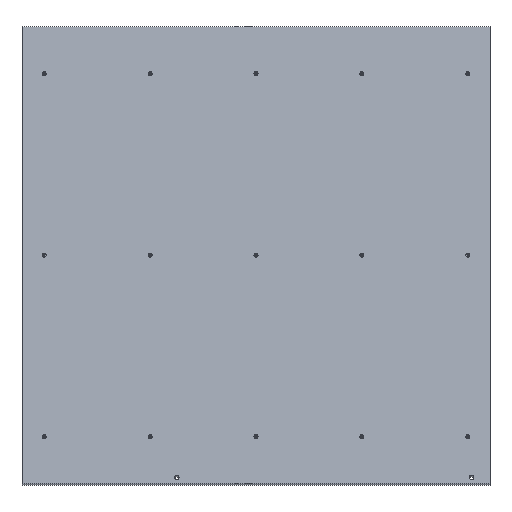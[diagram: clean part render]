
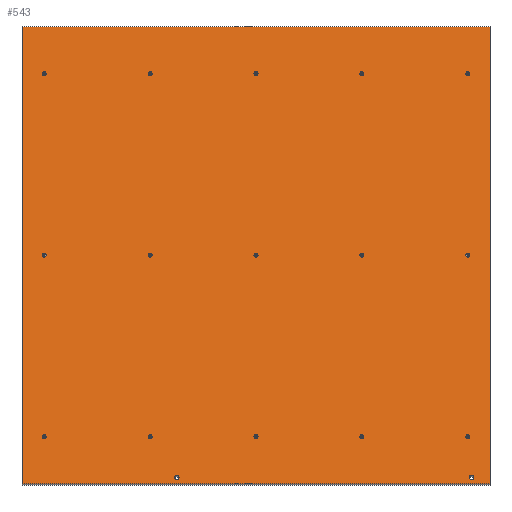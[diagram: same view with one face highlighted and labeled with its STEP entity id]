
A CAD part, front view. The second image highlights one B-rep face of the part: STEP entity #543.
In plain terms, the highlighted planar face has unit normal (0, -0.985, 0.174).
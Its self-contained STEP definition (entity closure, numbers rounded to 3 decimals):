
#37=CARTESIAN_POINT('',(1249.75,-5.209,296.706));
#38=VERTEX_POINT('',#37);
#45=CARTESIAN_POINT('',(-20.,-5.209,296.706));
#46=VERTEX_POINT('',#45);
#47=CARTESIAN_POINT('',(-20.,-5.209,296.706));
#48=DIRECTION('',(1.0,0.0,0.0));
#49=VECTOR('',#48,1.);
#50=LINE('',#47,#49);
#51=EDGE_CURVE('',#46,#38,#50,.T.);
#75=CARTESIAN_POINT('',(1249.75,213.587,1537.564));
#76=VERTEX_POINT('',#75);
#83=CARTESIAN_POINT('',(1249.75,-5.209,296.706));
#84=DIRECTION('',(0.,0.174,0.985));
#85=VECTOR('',#84,1.);
#86=LINE('',#83,#85);
#87=EDGE_CURVE('',#38,#76,#86,.T.);
#106=CARTESIAN_POINT('',(-20.,213.587,1537.564));
#107=VERTEX_POINT('',#106);
#114=CARTESIAN_POINT('',(1249.75,213.587,1537.564));
#115=DIRECTION('',(-1.0,0.,0.));
#116=VECTOR('',#115,1.);
#117=LINE('',#114,#116);
#118=EDGE_CURVE('',#76,#107,#117,.T.);
#136=CARTESIAN_POINT('',(-20.,213.587,1537.564));
#137=DIRECTION('',(0.,-0.174,-0.985));
#138=VECTOR('',#137,1.);
#139=LINE('',#136,#138);
#140=EDGE_CURVE('',#107,#46,#139,.T.);
#345=CARTESIAN_POINT('',(-20.,-5.209,296.706));
#346=DIRECTION('',(0.0,-0.985,0.174));
#347=DIRECTION('',(1.0,0.0,0.0));
#348=AXIS2_PLACEMENT_3D('',#345,#346,#347);
#349=PLANE('',#348);
#350=ORIENTED_EDGE('',*,*,#51,.T.);
#351=ORIENTED_EDGE('',*,*,#87,.T.);
#352=ORIENTED_EDGE('',*,*,#118,.T.);
#353=ORIENTED_EDGE('',*,*,#140,.T.);
#354=EDGE_LOOP('',(#350,#351,#352,#353));
#355=FACE_OUTER_BOUND('',#354,.T.);
#356=CARTESIAN_POINT('',(406.,-2.084,314.432));
#357=VERTEX_POINT('',#356);
#358=CARTESIAN_POINT('',(400.,-2.084,314.432));
#359=DIRECTION('',(0.0,-0.985,0.174));
#360=DIRECTION('',(1.0,0.0,0.0));
#361=AXIS2_PLACEMENT_3D('',#358,#359,#360);
#362=CIRCLE('',#361,6.0);
#363=EDGE_CURVE('',#357,#357,#362,.T.);
#364=ORIENTED_EDGE('',*,*,#363,.F.);
#365=EDGE_LOOP('',(#364));
#366=FACE_BOUND('',#365,.T.);
#367=CARTESIAN_POINT('',(1206.,-2.084,314.432));
#368=VERTEX_POINT('',#367);
#369=CARTESIAN_POINT('',(1200.0,-2.084,314.432));
#370=DIRECTION('',(0.0,-0.985,0.174));
#371=DIRECTION('',(1.0,0.0,0.0));
#372=AXIS2_PLACEMENT_3D('',#369,#370,#371);
#373=CIRCLE('',#372,6.0);
#374=EDGE_CURVE('',#368,#368,#373,.T.);
#375=ORIENTED_EDGE('',*,*,#374,.F.);
#376=EDGE_LOOP('',(#375));
#377=FACE_BOUND('',#376,.T.);
#378=CARTESIAN_POINT('',(45.5,17.365,424.731));
#379=VERTEX_POINT('',#378);
#380=CARTESIAN_POINT('',(40.,17.365,424.731));
#381=DIRECTION('',(0.0,-0.985,0.174));
#382=DIRECTION('',(1.0,0.0,0.0));
#383=AXIS2_PLACEMENT_3D('',#380,#381,#382);
#384=CIRCLE('',#383,5.5);
#385=EDGE_CURVE('',#379,#379,#384,.T.);
#386=ORIENTED_EDGE('',*,*,#385,.F.);
#387=EDGE_LOOP('',(#386));
#388=FACE_BOUND('',#387,.T.);
#389=CARTESIAN_POINT('',(45.5,104.189,917.135));
#390=VERTEX_POINT('',#389);
#391=CARTESIAN_POINT('',(40.,104.189,917.135));
#392=DIRECTION('',(0.0,-0.985,0.174));
#393=DIRECTION('',(1.0,0.0,0.0));
#394=AXIS2_PLACEMENT_3D('',#391,#392,#393);
#395=CIRCLE('',#394,5.5);
#396=EDGE_CURVE('',#390,#390,#395,.T.);
#397=ORIENTED_EDGE('',*,*,#396,.F.);
#398=EDGE_LOOP('',(#397));
#399=FACE_BOUND('',#398,.T.);
#400=CARTESIAN_POINT('',(45.5,191.013,1409.539));
#401=VERTEX_POINT('',#400);
#402=CARTESIAN_POINT('',(40.,191.013,1409.539));
#403=DIRECTION('',(0.0,-0.985,0.174));
#404=DIRECTION('',(1.0,0.0,0.0));
#405=AXIS2_PLACEMENT_3D('',#402,#403,#404);
#406=CIRCLE('',#405,5.5);
#407=EDGE_CURVE('',#401,#401,#406,.T.);
#408=ORIENTED_EDGE('',*,*,#407,.F.);
#409=EDGE_LOOP('',(#408));
#410=FACE_BOUND('',#409,.T.);
#411=CARTESIAN_POINT('',(332.938,17.365,424.731));
#412=VERTEX_POINT('',#411);
#413=CARTESIAN_POINT('',(327.437,17.365,424.731));
#414=DIRECTION('',(0.0,-0.985,0.174));
#415=DIRECTION('',(1.0,0.0,0.0));
#416=AXIS2_PLACEMENT_3D('',#413,#414,#415);
#417=CIRCLE('',#416,5.5);
#418=EDGE_CURVE('',#412,#412,#417,.T.);
#419=ORIENTED_EDGE('',*,*,#418,.F.);
#420=EDGE_LOOP('',(#419));
#421=FACE_BOUND('',#420,.T.);
#422=CARTESIAN_POINT('',(332.938,104.189,917.135));
#423=VERTEX_POINT('',#422);
#424=CARTESIAN_POINT('',(327.437,104.189,917.135));
#425=DIRECTION('',(0.0,-0.985,0.174));
#426=DIRECTION('',(1.0,0.0,0.0));
#427=AXIS2_PLACEMENT_3D('',#424,#425,#426);
#428=CIRCLE('',#427,5.5);
#429=EDGE_CURVE('',#423,#423,#428,.T.);
#430=ORIENTED_EDGE('',*,*,#429,.F.);
#431=EDGE_LOOP('',(#430));
#432=FACE_BOUND('',#431,.T.);
#433=CARTESIAN_POINT('',(332.938,191.013,1409.539));
#434=VERTEX_POINT('',#433);
#435=CARTESIAN_POINT('',(327.437,191.013,1409.539));
#436=DIRECTION('',(0.0,-0.985,0.174));
#437=DIRECTION('',(1.0,0.0,0.0));
#438=AXIS2_PLACEMENT_3D('',#435,#436,#437);
#439=CIRCLE('',#438,5.5);
#440=EDGE_CURVE('',#434,#434,#439,.T.);
#441=ORIENTED_EDGE('',*,*,#440,.F.);
#442=EDGE_LOOP('',(#441));
#443=FACE_BOUND('',#442,.T.);
#444=CARTESIAN_POINT('',(620.375,17.365,424.731));
#445=VERTEX_POINT('',#444);
#446=CARTESIAN_POINT('',(614.875,17.365,424.731));
#447=DIRECTION('',(0.0,-0.985,0.174));
#448=DIRECTION('',(1.0,0.0,0.0));
#449=AXIS2_PLACEMENT_3D('',#446,#447,#448);
#450=CIRCLE('',#449,5.5);
#451=EDGE_CURVE('',#445,#445,#450,.T.);
#452=ORIENTED_EDGE('',*,*,#451,.F.);
#453=EDGE_LOOP('',(#452));
#454=FACE_BOUND('',#453,.T.);
#455=CARTESIAN_POINT('',(620.375,104.189,917.135));
#456=VERTEX_POINT('',#455);
#457=CARTESIAN_POINT('',(614.875,104.189,917.135));
#458=DIRECTION('',(0.0,-0.985,0.174));
#459=DIRECTION('',(1.0,0.0,0.0));
#460=AXIS2_PLACEMENT_3D('',#457,#458,#459);
#461=CIRCLE('',#460,5.5);
#462=EDGE_CURVE('',#456,#456,#461,.T.);
#463=ORIENTED_EDGE('',*,*,#462,.F.);
#464=EDGE_LOOP('',(#463));
#465=FACE_BOUND('',#464,.T.);
#466=CARTESIAN_POINT('',(620.375,191.013,1409.539));
#467=VERTEX_POINT('',#466);
#468=CARTESIAN_POINT('',(614.875,191.013,1409.539));
#469=DIRECTION('',(0.0,-0.985,0.174));
#470=DIRECTION('',(1.0,0.0,0.0));
#471=AXIS2_PLACEMENT_3D('',#468,#469,#470);
#472=CIRCLE('',#471,5.5);
#473=EDGE_CURVE('',#467,#467,#472,.T.);
#474=ORIENTED_EDGE('',*,*,#473,.F.);
#475=EDGE_LOOP('',(#474));
#476=FACE_BOUND('',#475,.T.);
#477=CARTESIAN_POINT('',(907.812,17.365,424.731));
#478=VERTEX_POINT('',#477);
#479=CARTESIAN_POINT('',(902.312,17.365,424.731));
#480=DIRECTION('',(0.0,-0.985,0.174));
#481=DIRECTION('',(1.0,0.0,0.0));
#482=AXIS2_PLACEMENT_3D('',#479,#480,#481);
#483=CIRCLE('',#482,5.5);
#484=EDGE_CURVE('',#478,#478,#483,.T.);
#485=ORIENTED_EDGE('',*,*,#484,.F.);
#486=EDGE_LOOP('',(#485));
#487=FACE_BOUND('',#486,.T.);
#488=CARTESIAN_POINT('',(907.812,104.189,917.135));
#489=VERTEX_POINT('',#488);
#490=CARTESIAN_POINT('',(902.312,104.189,917.135));
#491=DIRECTION('',(0.0,-0.985,0.174));
#492=DIRECTION('',(1.0,0.0,0.0));
#493=AXIS2_PLACEMENT_3D('',#490,#491,#492);
#494=CIRCLE('',#493,5.5);
#495=EDGE_CURVE('',#489,#489,#494,.T.);
#496=ORIENTED_EDGE('',*,*,#495,.F.);
#497=EDGE_LOOP('',(#496));
#498=FACE_BOUND('',#497,.T.);
#499=CARTESIAN_POINT('',(907.812,191.013,1409.539));
#500=VERTEX_POINT('',#499);
#501=CARTESIAN_POINT('',(902.312,191.013,1409.539));
#502=DIRECTION('',(0.0,-0.985,0.174));
#503=DIRECTION('',(1.0,0.0,0.0));
#504=AXIS2_PLACEMENT_3D('',#501,#502,#503);
#505=CIRCLE('',#504,5.5);
#506=EDGE_CURVE('',#500,#500,#505,.T.);
#507=ORIENTED_EDGE('',*,*,#506,.F.);
#508=EDGE_LOOP('',(#507));
#509=FACE_BOUND('',#508,.T.);
#510=CARTESIAN_POINT('',(1195.25,17.365,424.731));
#511=VERTEX_POINT('',#510);
#512=CARTESIAN_POINT('',(1189.75,17.365,424.731));
#513=DIRECTION('',(0.0,-0.985,0.174));
#514=DIRECTION('',(1.0,0.0,0.0));
#515=AXIS2_PLACEMENT_3D('',#512,#513,#514);
#516=CIRCLE('',#515,5.5);
#517=EDGE_CURVE('',#511,#511,#516,.T.);
#518=ORIENTED_EDGE('',*,*,#517,.F.);
#519=EDGE_LOOP('',(#518));
#520=FACE_BOUND('',#519,.T.);
#521=CARTESIAN_POINT('',(1195.25,104.189,917.135));
#522=VERTEX_POINT('',#521);
#523=CARTESIAN_POINT('',(1189.75,104.189,917.135));
#524=DIRECTION('',(0.0,-0.985,0.174));
#525=DIRECTION('',(1.0,0.0,0.0));
#526=AXIS2_PLACEMENT_3D('',#523,#524,#525);
#527=CIRCLE('',#526,5.5);
#528=EDGE_CURVE('',#522,#522,#527,.T.);
#529=ORIENTED_EDGE('',*,*,#528,.F.);
#530=EDGE_LOOP('',(#529));
#531=FACE_BOUND('',#530,.T.);
#532=CARTESIAN_POINT('',(1195.25,191.013,1409.539));
#533=VERTEX_POINT('',#532);
#534=CARTESIAN_POINT('',(1189.75,191.013,1409.539));
#535=DIRECTION('',(0.0,-0.985,0.174));
#536=DIRECTION('',(1.0,0.0,0.0));
#537=AXIS2_PLACEMENT_3D('',#534,#535,#536);
#538=CIRCLE('',#537,5.5);
#539=EDGE_CURVE('',#533,#533,#538,.T.);
#540=ORIENTED_EDGE('',*,*,#539,.F.);
#541=EDGE_LOOP('',(#540));
#542=FACE_BOUND('',#541,.T.);
#543=ADVANCED_FACE('',(#355,#366,#377,#388,#399,#410,#421,#432,#443,#454,#465,#476,#487,#498,#509,#520,#531,#542),#349,.T.);
